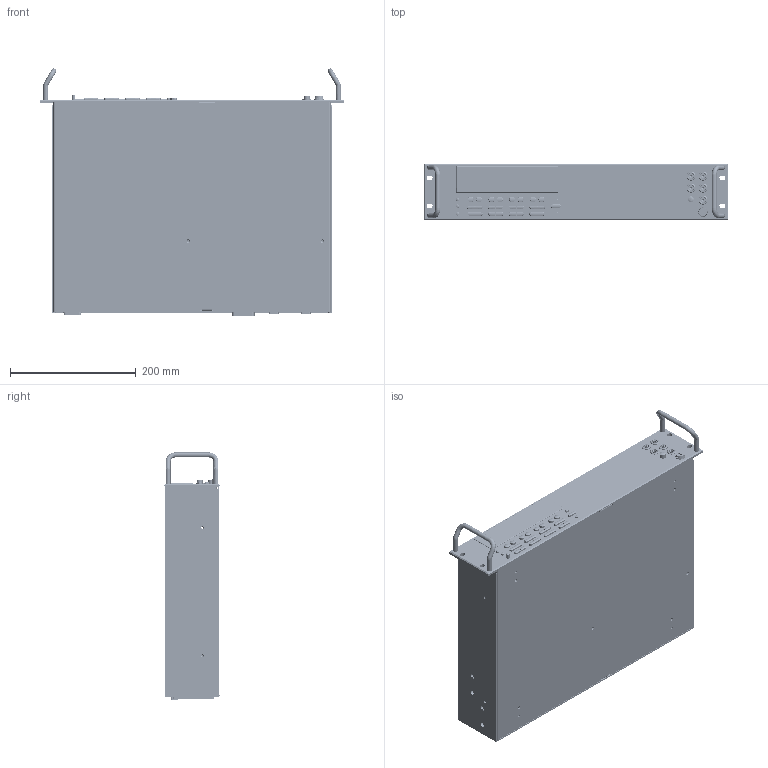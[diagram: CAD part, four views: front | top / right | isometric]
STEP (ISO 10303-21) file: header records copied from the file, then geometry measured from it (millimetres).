
FILE_DESCRIPTION((''),'2;1');
FILE_NAME('2750_ASM','2016-01-25T',('jpeters'),('Keithley Instruments'),'CREO PARAMETRIC BY PTC INC, 2014440','CREO PARAMETRIC BY PTC INC, 2014440','');
FILE_SCHEMA(('CONFIG_CONTROL_DESIGN'));
Length unit declared in the file: inch
Products named in the file (34): 2750-301; 2750-303; PM-1-1; 704-313; 2750-305; BJ-14-SHELL; BJ-14-PIN; BJ-14_ASM; HH-30-7; FH-40; 2750-310; 2750-307; 2750-FRONT-PANEL_ASM; 2700-318; 2750-132; CS-736-4; 2750-130_ASM; 2750-CARD-CAGE_ASM; CS-1027-1; CS-792; CS-507; 2700-319; 2750-100_ASM; 2750-309; 2750-314; 2750-316; 2750-122; CS-1066-2; CS-612-1; 2750-120_ASM; 2750-316_ASM; 2750-313; GR-55-1; 2750_ASM
Assembly tree (45 placements, depth 4):
  2750_ASM
    2750-301
    2750-303
    PM-1-1
    704-313
    2750-FRONT-PANEL_ASM
      2750-305
      BJ-14_ASM  x7
        BJ-14-SHELL
        BJ-14-PIN
      HH-30-7  x2
      FH-40
      2750-310
      2750-307
    2750-CARD-CAGE_ASM
      2700-318
      2750-130_ASM
        2750-132
        CS-736-4  x2
    2750-100_ASM
      CS-1027-1  x2
      CS-792
      CS-507
      2700-319
    2750-309
    2750-314
    2750-316_ASM
      2750-316
      2750-120_ASM
        2750-122
        CS-736-4  x3
        CS-1066-2
        CS-612-1
    2750-313
    GR-55-1
Bounding box: 482.6 x 88.14 x 392.55 mm (x, y, z)
Volume: 1584547.9 mm3; surface area: 1487607.3 mm2
Topology: 64 solids, 64 shells, 7009 faces, 17730 edges, 11528 vertices
Faces by surface type: plane 4400, cylinder 2048, cone 305, bspline 128, torus 96, sphere 32
Entity records: 161759 total; most frequent: CARTESIAN_POINT 38471, DIRECTION 25624, ORIENTED_EDGE 24976, EDGE_CURVE 12488, AXIS2_PLACEMENT_3D 8693, VECTOR 8238, LINE 8238, VERTEX_POINT 8110
